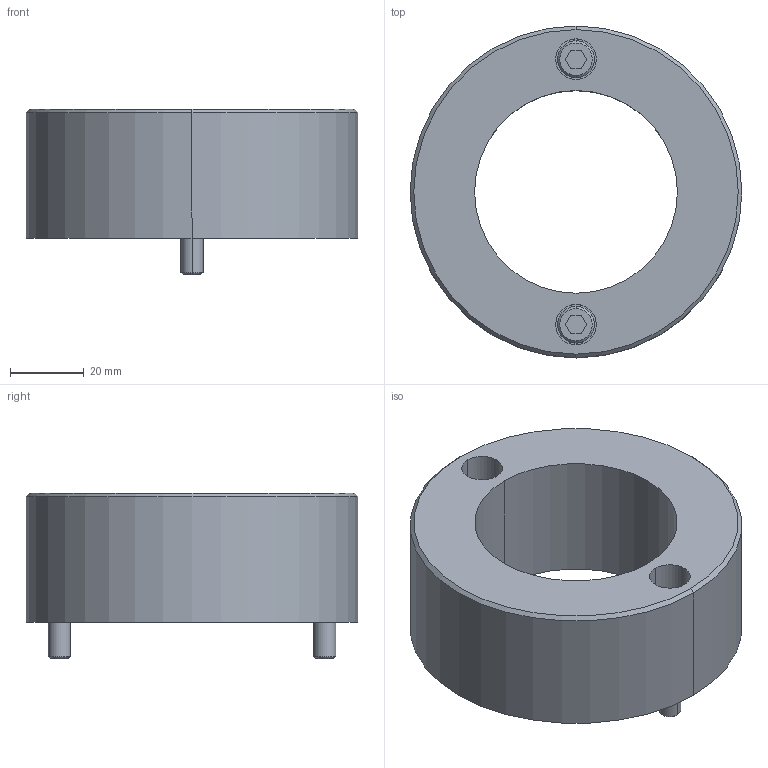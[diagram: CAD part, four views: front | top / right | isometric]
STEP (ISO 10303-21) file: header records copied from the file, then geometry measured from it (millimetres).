
FILE_DESCRIPTION((''),'2;1');
FILE_NAME('','2010-08-30T17:17:52+09:00',('misumi'),(''),'M/STEP i/f 1R2-14','CADmeister v5.1','');
FILE_SCHEMA(('AUTOMOTIVE_DESIGN'));
Length unit declared in the file: millimetre
Products named in the file (1): GEB50-35-R
Bounding box: 90 x 90 x 45 mm (x, y, z)
Volume: 137682.3 mm3; surface area: 27359.8 mm2
Topology: 3 solids, 3 shells, 54 faces, 116 edges, 74 vertices
Faces by surface type: plane 24, cylinder 20, cone 10
Entity records: 1592 total; most frequent: DIRECTION 276, CARTESIAN_POINT 245, ORIENTED_EDGE 232, EDGE_CURVE 116, AXIS2_PLACEMENT_3D 105, VERTEX_POINT 74, LINE 66, VECTOR 66
